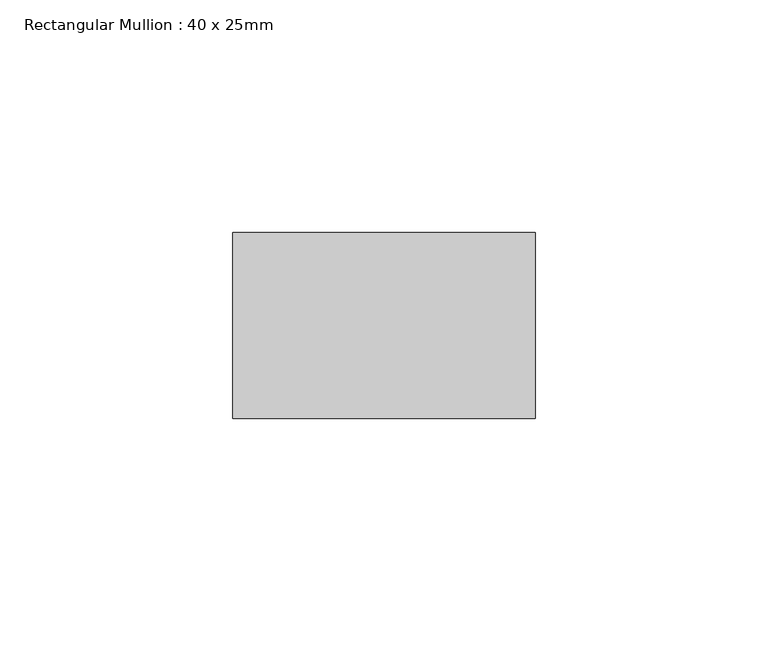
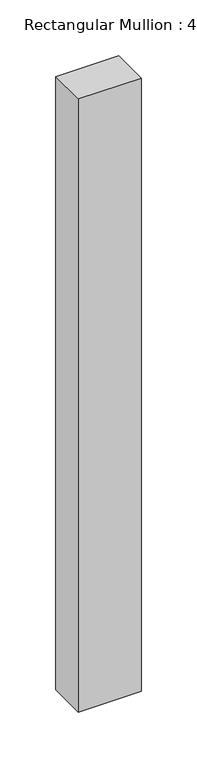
"""IFC4 building model written with IfcOpenShell, lengths in millimetres: member geometry, Rectangular Mullion : 40 x 25mm."""

from ifc_helpers import new_model, si_unit, frame, origin, place, context, project, spatial, polyline, outline, extrude, source, transform, mapped, element, save


def rectangular_mullion_40_x_25mm_5f764d2c(model_context):
    return source(origin(), model_context, "Body", "SweptSolid", [
        extrude(outline(polyline([(0.0, -20.0), (0.0, -60.0), (-65.0, -60.0), (-65.0, -20.0), (0.0, -20.0)])), frame((0.0, 0.0, -670.0), z_axis=(0.0, 0.0, 1.0), x_axis=(1.0, 0.0, 0.0)), (0.0, 0.0, 1.0), 670.0),
    ])


if __name__ == "__main__":
    model = new_model("IFC4")
    model_context = context("Model", 3, world=origin())
    ifc_project = project(units=[si_unit("LENGTHUNIT", "METRE", prefix="MILLI")], contexts=[model_context])
    site = spatial("IfcSite", under=ifc_project)
    building = spatial("IfcBuilding", under=site)
    placement = place(None, origin())
    rectangular_mullion_40_x_25mm_shape = rectangular_mullion_40_x_25mm_5f764d2c(model_context)
    element("IfcMember", 1, ObjectType="Rectangular Mullion : 40 x 25mm", at=placement, inside=building, context=model_context, shape_type="MappedRepresentation", body=[
        mapped(rectangular_mullion_40_x_25mm_shape, transform((0.0, 0.0, 0.0), x_axis=(1.0, 0.0, 0.0), y_axis=(0.0, 1.0, 0.0), z_axis=(0.0, 0.0, 1.0))),
    ])
    save(model, "model.ifc")
